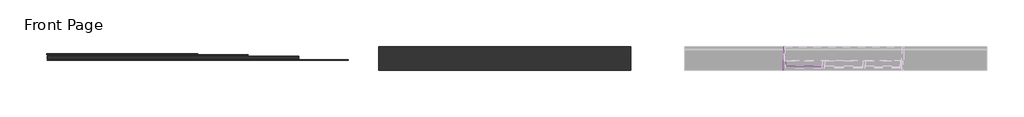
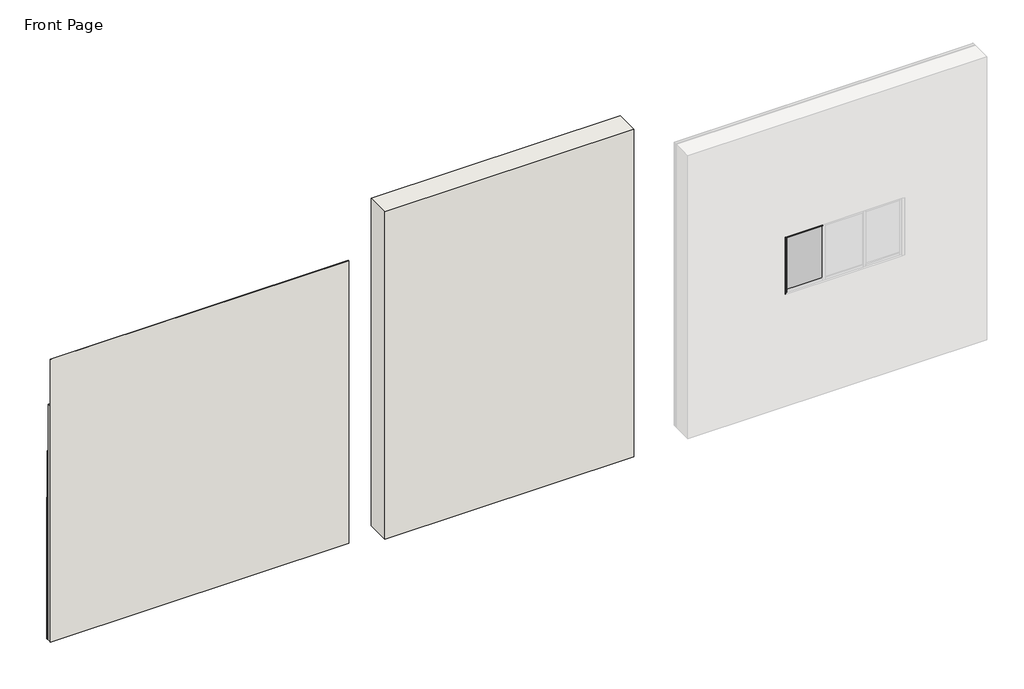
# One storey, part 1 of 2: 8 walls, 2 members, 1 plate.
"""IFC4 building model written with IfcOpenShell, lengths in millimetres."""

from ifc_helpers import new_model, si_unit, point, frame, frame_2d, origin, origin_with_axes, place, context, project, spatial, polyline, circle_curve, trimmed, segment, composite_curve, outline, extrude, faceted_brep, transform, mapped, element, save
from components import rectangular_mullion_50_x_150mm_a0b78ac3, rectangular_mullion_50_x_150mm_9df94d2e, system_panel_glazed_bc678703

model = new_model("IFC4")

# Units and contexts
model_context = context("Model", 3, world=origin())
ifc_project = project(units=[si_unit("LENGTHUNIT", "METRE", prefix="MILLI")], contexts=[model_context])

# Site, building, storey
site = spatial("IfcSite", under=ifc_project)
building = spatial("IfcBuilding", under=site)
storey = spatial("IfcBuildingStorey", under=building, Name="Front Page", Elevation=0.0)

# Members
placement = place(None, origin())
rectangular_mullion_50_x_150mm_shape = rectangular_mullion_50_x_150mm_a0b78ac3(model_context)
element("IfcMember", 1, ObjectType="Rectangular Mullion : 50 x 150mm", at=placement, inside=storey, context=model_context, shape_type="MappedRepresentation", body=[
    mapped(rectangular_mullion_50_x_150mm_shape, transform((23302.2000967, 330.3189246, 2377.3132869), x_axis=(-1.0, 0.0, 0.0), y_axis=(0.0, 1.0, 0.0), z_axis=(0.0, 0.0, -1.0))),
])
rectangular_mullion_50_x_150mm_2_shape = rectangular_mullion_50_x_150mm_9df94d2e(model_context)
element("IfcMember", 2, ObjectType="Rectangular Mullion : 50 x 150mm", at=placement, inside=storey, context=model_context, shape_type="MappedRepresentation", body=[
    mapped(rectangular_mullion_50_x_150mm_2_shape, transform((23352.2000967, 330.3189246, 3589.3132869), x_axis=(0.0, 0.0, 1.0), y_axis=(0.0, 1.0, 0.0), z_axis=(-1.0, 0.0, 0.0))),
])

# Plate
system_panel_glazed_shape = system_panel_glazed_bc678703(model_context)
element("IfcPlate", 3, ObjectType="System Panel : Glazed", at=placement, inside=storey, context=model_context, shape_type="MappedRepresentation", body=[
    mapped(system_panel_glazed_shape, transform((23712.9500967, 330.3189246, 2427.3132869), x_axis=(-1.0, 0.0, 0.0), y_axis=(0.0, -1.0, 0.0), z_axis=(0.0, 0.0, 1.0))),
])

# Walls
element("IfcWall", 4, ObjectType="Skamol Adhesive - 8mm", at=placement, inside=storey, context=model_context, shape_type="SweptSolid", body=[
    extrude(outline(polyline([(14655.2832575, 423.1423036), (8672.7832575, 423.1423036), (8672.7832575, 431.1423036), (14655.2832575, 431.1423036), (14655.2832575, 423.1423036)])), origin_with_axes(), (0.0, 0.0, 1.0), 6000.0),
])
element("IfcWall", 5, ObjectType="SkamoWall Board 50mm", at=placement, inside=storey, context=model_context, shape_type="SweptSolid", body=[
    extrude(outline(polyline([(13672.7832575, 449.8766786), (8672.7832575, 449.8766786), (8672.7832575, 499.8766786), (13672.7832575, 499.8766786), (13672.7832575, 449.8766786)])), origin_with_axes(), (0.0, 0.0, 1.0), 5000.0),
])
element("IfcWall", 6, ObjectType="Skamol Smooth Plaster", at=placement, inside=storey, context=model_context, shape_type="SweptSolid", body=[
    extrude(outline(polyline([(11663.5645075, 542.1305848), (8663.5645075, 542.1305848), (8663.5645075, 543.1305848), (11663.5645075, 543.1305848), (11663.5645075, 542.1305848)])), origin_with_axes(), (0.0, 0.0, 1.0), 3000.0),
])
element("IfcWall", 7, ObjectType="Skamol Adhesive - 8mm", at=placement, inside=storey, context=model_context, shape_type="SweptSolid", body=[
    extrude(outline(polyline([(23306.2000967, 630.3423621), (23306.2000967, 222.3189246), (23298.2000967, 222.3189246), (23298.2000967, 630.3423621), (23306.2000967, 630.3423621)])), frame((0.0, 0.0, 2377.3132869), z_axis=(0.0, 0.0, 1.0), x_axis=(1.0, 0.0, 0.0)), (0.0, 0.0, 1.0), 1212.0),
])
element("IfcWall", 8, ObjectType="SkamoWall Bore 19mm", at=placement, inside=storey, context=model_context, shape_type="Brep", body=[
    faceted_brep([(23305.6219717, 638.2173621, 2377.3132869), (23305.6219717, 403.3189246, 2377.3132869), (23305.6219717, 403.3189246, 3335.2843555), (23305.6219717, 638.2173621, 3335.2843555), (23305.6219717, 688.2173621, 3335.2843555), (23305.6219717, 688.2173621, 2410.9805239), (23305.6219717, 638.2173621, 2410.9805239), (23324.6219717, 638.2173621, 2377.3132869), (23324.6219717, 638.2173621, 2410.9805239), (23324.6219717, 688.2173621, 2410.9805239), (23324.6219717, 688.2173621, 3335.2843555), (23324.6219717, 403.3189246, 3335.2843555), (23324.6219717, 403.3189246, 2377.3132869)], [[[0, 1, 2, 3, 4, 5, 6]], [[7, 8, 9, 10, 11, 12]], [[1, 0, 7, 12]], [[2, 1, 12, 11]], [[4, 3, 2, 11, 10]], [[5, 9, 8, 6]], [[0, 6, 8, 7]], [[5, 4, 10, 9]]]),
])
element("IfcWall", 9, ObjectType="Skamol Corner", at=placement, inside=storey, context=model_context, shape_type="SweptSolid", body=[
    extrude(outline(polyline([(2540.9913184, 23326.4188467), (2842.1965755, 23326.4188467), (2842.1965755, 23300.8250967), (2540.9913184, 23300.8250967), (2540.9913184, 23326.4188467)]), holes=[composite_curve([segment(trimmed(circle_curve(frame_2d((2648.8978073, 23308.3781455)), 2.2296072), [point((2648.8978073, 23306.1485383))], [point((2648.8978073, 23310.6077527))], True, "CARTESIAN"), True, "CONTINUOUS"), segment(trimmed(circle_curve(frame_2d((2648.8978073, 23308.3781455)), 2.2296072), [point((2648.8978073, 23310.6077527))], [point((2648.8978073, 23306.1485383))], True, "CARTESIAN"), True, "CONTINUOUS")], self_intersect=False), composite_curve([segment(trimmed(circle_curve(frame_2d((2643.5709124, 23317.2823257)), 3.1585397), [point((2643.5709124, 23314.123786))], [point((2643.5709124, 23320.4408654))], True, "CARTESIAN"), True, "CONTINUOUS"), segment(trimmed(circle_curve(frame_2d((2643.5709124, 23317.2823257)), 3.1585397), [point((2643.5709124, 23320.4408654))], [point((2643.5709124, 23314.123786))], True, "CARTESIAN"), True, "CONTINUOUS")], self_intersect=False), composite_curve([segment(trimmed(circle_curve(frame_2d((2638.8978073, 23308.3781455)), 2.2296072), [point((2638.8978073, 23306.1485383))], [point((2638.8978073, 23310.6077527))], True, "CARTESIAN"), True, "CONTINUOUS"), segment(trimmed(circle_curve(frame_2d((2638.8978073, 23308.3781455)), 2.2296072), [point((2638.8978073, 23310.6077527))], [point((2638.8978073, 23306.1485383))], True, "CARTESIAN"), True, "CONTINUOUS")], self_intersect=False), composite_curve([segment(trimmed(circle_curve(frame_2d((2633.5709124, 23317.2823257)), 3.1585397), [point((2633.5709124, 23314.123786))], [point((2633.5709124, 23320.4408654))], True, "CARTESIAN"), True, "CONTINUOUS"), segment(trimmed(circle_curve(frame_2d((2633.5709124, 23317.2823257)), 3.1585397), [point((2633.5709124, 23320.4408654))], [point((2633.5709124, 23314.123786))], True, "CARTESIAN"), True, "CONTINUOUS")], self_intersect=False), composite_curve([segment(trimmed(circle_curve(frame_2d((2628.8978073, 23308.3781455)), 2.2296072), [point((2628.8978073, 23306.1485383))], [point((2628.8978073, 23310.6077527))], True, "CARTESIAN"), True, "CONTINUOUS"), segment(trimmed(circle_curve(frame_2d((2628.8978073, 23308.3781455)), 2.2296072), [point((2628.8978073, 23310.6077527))], [point((2628.8978073, 23306.1485383))], True, "CARTESIAN"), True, "CONTINUOUS")], self_intersect=False), composite_curve([segment(trimmed(circle_curve(frame_2d((2623.5709124, 23317.2823257)), 3.1585397), [point((2623.5709124, 23314.123786))], [point((2623.5709124, 23320.4408654))], True, "CARTESIAN"), True, "CONTINUOUS"), segment(trimmed(circle_curve(frame_2d((2623.5709124, 23317.2823257)), 3.1585397), [point((2623.5709124, 23320.4408654))], [point((2623.5709124, 23314.123786))], True, "CARTESIAN"), True, "CONTINUOUS")], self_intersect=False), composite_curve([segment(trimmed(circle_curve(frame_2d((2618.8978073, 23308.3781455)), 2.2296072), [point((2618.8978073, 23306.1485383))], [point((2618.8978073, 23310.6077527))], True, "CARTESIAN"), True, "CONTINUOUS"), segment(trimmed(circle_curve(frame_2d((2618.8978073, 23308.3781455)), 2.2296072), [point((2618.8978073, 23310.6077527))], [point((2618.8978073, 23306.1485383))], True, "CARTESIAN"), True, "CONTINUOUS")], self_intersect=False), composite_curve([segment(trimmed(circle_curve(frame_2d((2613.5709124, 23317.2823257)), 3.1585397), [point((2613.5709124, 23314.123786))], [point((2613.5709124, 23320.4408654))], True, "CARTESIAN"), True, "CONTINUOUS"), segment(trimmed(circle_curve(frame_2d((2613.5709124, 23317.2823257)), 3.1585397), [point((2613.5709124, 23320.4408654))], [point((2613.5709124, 23314.123786))], True, "CARTESIAN"), True, "CONTINUOUS")], self_intersect=False), composite_curve([segment(trimmed(circle_curve(frame_2d((2608.8978073, 23308.3781455)), 2.2296072), [point((2608.8978073, 23306.1485383))], [point((2608.8978073, 23310.6077527))], True, "CARTESIAN"), True, "CONTINUOUS"), segment(trimmed(circle_curve(frame_2d((2608.8978073, 23308.3781455)), 2.2296072), [point((2608.8978073, 23310.6077527))], [point((2608.8978073, 23306.1485383))], True, "CARTESIAN"), True, "CONTINUOUS")], self_intersect=False), composite_curve([segment(trimmed(circle_curve(frame_2d((2603.5709124, 23317.2823257)), 3.1585397), [point((2603.5709124, 23314.123786))], [point((2603.5709124, 23320.4408654))], True, "CARTESIAN"), True, "CONTINUOUS"), segment(trimmed(circle_curve(frame_2d((2603.5709124, 23317.2823257)), 3.1585397), [point((2603.5709124, 23320.4408654))], [point((2603.5709124, 23314.123786))], True, "CARTESIAN"), True, "CONTINUOUS")], self_intersect=False), composite_curve([segment(trimmed(circle_curve(frame_2d((2598.8978073, 23308.3781455)), 2.2296072), [point((2598.8978073, 23306.1485383))], [point((2598.8978073, 23310.6077527))], True, "CARTESIAN"), True, "CONTINUOUS"), segment(trimmed(circle_curve(frame_2d((2598.8978073, 23308.3781455)), 2.2296072), [point((2598.8978073, 23310.6077527))], [point((2598.8978073, 23306.1485383))], True, "CARTESIAN"), True, "CONTINUOUS")], self_intersect=False), composite_curve([segment(trimmed(circle_curve(frame_2d((2593.5709124, 23317.2823257)), 3.1585397), [point((2593.5709124, 23314.123786))], [point((2593.5709124, 23320.4408654))], True, "CARTESIAN"), True, "CONTINUOUS"), segment(trimmed(circle_curve(frame_2d((2593.5709124, 23317.2823257)), 3.1585397), [point((2593.5709124, 23320.4408654))], [point((2593.5709124, 23314.123786))], True, "CARTESIAN"), True, "CONTINUOUS")], self_intersect=False), composite_curve([segment(trimmed(circle_curve(frame_2d((2588.8978073, 23308.3781455)), 2.2296072), [point((2588.8978073, 23306.1485383))], [point((2588.8978073, 23310.6077527))], True, "CARTESIAN"), True, "CONTINUOUS"), segment(trimmed(circle_curve(frame_2d((2588.8978073, 23308.3781455)), 2.2296072), [point((2588.8978073, 23310.6077527))], [point((2588.8978073, 23306.1485383))], True, "CARTESIAN"), True, "CONTINUOUS")], self_intersect=False), composite_curve([segment(trimmed(circle_curve(frame_2d((2583.5709124, 23317.2823257)), 3.1585397), [point((2583.5709124, 23314.123786))], [point((2583.5709124, 23320.4408654))], True, "CARTESIAN"), True, "CONTINUOUS"), segment(trimmed(circle_curve(frame_2d((2583.5709124, 23317.2823257)), 3.1585397), [point((2583.5709124, 23320.4408654))], [point((2583.5709124, 23314.123786))], True, "CARTESIAN"), True, "CONTINUOUS")], self_intersect=False), composite_curve([segment(trimmed(circle_curve(frame_2d((2578.8978073, 23308.3781455)), 2.2296072), [point((2578.8978073, 23306.1485383))], [point((2578.8978073, 23310.6077527))], True, "CARTESIAN"), True, "CONTINUOUS"), segment(trimmed(circle_curve(frame_2d((2578.8978073, 23308.3781455)), 2.2296072), [point((2578.8978073, 23310.6077527))], [point((2578.8978073, 23306.1485383))], True, "CARTESIAN"), True, "CONTINUOUS")], self_intersect=False), composite_curve([segment(trimmed(circle_curve(frame_2d((2573.5709124, 23317.2823257)), 3.1585397), [point((2573.5709124, 23314.123786))], [point((2573.5709124, 23320.4408654))], True, "CARTESIAN"), True, "CONTINUOUS"), segment(trimmed(circle_curve(frame_2d((2573.5709124, 23317.2823257)), 3.1585397), [point((2573.5709124, 23320.4408654))], [point((2573.5709124, 23314.123786))], True, "CARTESIAN"), True, "CONTINUOUS")], self_intersect=False), composite_curve([segment(trimmed(circle_curve(frame_2d((2568.8978073, 23308.3781455)), 2.2296072), [point((2568.8978073, 23306.1485383))], [point((2568.8978073, 23310.6077527))], True, "CARTESIAN"), True, "CONTINUOUS"), segment(trimmed(circle_curve(frame_2d((2568.8978073, 23308.3781455)), 2.2296072), [point((2568.8978073, 23310.6077527))], [point((2568.8978073, 23306.1485383))], True, "CARTESIAN"), True, "CONTINUOUS")], self_intersect=False), composite_curve([segment(trimmed(circle_curve(frame_2d((2563.5709124, 23317.2823257)), 3.1585397), [point((2563.5709124, 23314.123786))], [point((2563.5709124, 23320.4408654))], True, "CARTESIAN"), True, "CONTINUOUS"), segment(trimmed(circle_curve(frame_2d((2563.5709124, 23317.2823257)), 3.1585397), [point((2563.5709124, 23320.4408654))], [point((2563.5709124, 23314.123786))], True, "CARTESIAN"), True, "CONTINUOUS")], self_intersect=False), composite_curve([segment(trimmed(circle_curve(frame_2d((2558.8978073, 23308.3781455)), 2.2296072), [point((2558.8978073, 23306.1485383))], [point((2558.8978073, 23310.6077527))], True, "CARTESIAN"), True, "CONTINUOUS"), segment(trimmed(circle_curve(frame_2d((2558.8978073, 23308.3781455)), 2.2296072), [point((2558.8978073, 23310.6077527))], [point((2558.8978073, 23306.1485383))], True, "CARTESIAN"), True, "CONTINUOUS")], self_intersect=False), composite_curve([segment(trimmed(circle_curve(frame_2d((2553.5709124, 23317.2823257)), 3.1585397), [point((2553.5709124, 23314.123786))], [point((2553.5709124, 23320.4408654))], True, "CARTESIAN"), True, "CONTINUOUS"), segment(trimmed(circle_curve(frame_2d((2553.5709124, 23317.2823257)), 3.1585397), [point((2553.5709124, 23320.4408654))], [point((2553.5709124, 23314.123786))], True, "CARTESIAN"), True, "CONTINUOUS")], self_intersect=False), composite_curve([segment(trimmed(circle_curve(frame_2d((2548.8978073, 23308.3781455)), 2.2296072), [point((2548.8978073, 23306.1485383))], [point((2548.8978073, 23310.6077527))], True, "CARTESIAN"), True, "CONTINUOUS"), segment(trimmed(circle_curve(frame_2d((2548.8978073, 23308.3781455)), 2.2296072), [point((2548.8978073, 23310.6077527))], [point((2548.8978073, 23306.1485383))], True, "CARTESIAN"), True, "CONTINUOUS")], self_intersect=False), composite_curve([segment(trimmed(circle_curve(frame_2d((2748.8978073, 23308.3781455)), 2.2296072), [point((2748.8978073, 23306.1485383))], [point((2748.8978073, 23310.6077527))], True, "CARTESIAN"), True, "CONTINUOUS"), segment(trimmed(circle_curve(frame_2d((2748.8978073, 23308.3781455)), 2.2296072), [point((2748.8978073, 23310.6077527))], [point((2748.8978073, 23306.1485383))], True, "CARTESIAN"), True, "CONTINUOUS")], self_intersect=False), composite_curve([segment(trimmed(circle_curve(frame_2d((2743.5709124, 23317.2823257)), 3.1585397), [point((2743.5709124, 23314.123786))], [point((2743.5709124, 23320.4408654))], True, "CARTESIAN"), True, "CONTINUOUS"), segment(trimmed(circle_curve(frame_2d((2743.5709124, 23317.2823257)), 3.1585397), [point((2743.5709124, 23320.4408654))], [point((2743.5709124, 23314.123786))], True, "CARTESIAN"), True, "CONTINUOUS")], self_intersect=False), composite_curve([segment(trimmed(circle_curve(frame_2d((2738.8978073, 23308.3781455)), 2.2296072), [point((2738.8978073, 23306.1485383))], [point((2738.8978073, 23310.6077527))], True, "CARTESIAN"), True, "CONTINUOUS"), segment(trimmed(circle_curve(frame_2d((2738.8978073, 23308.3781455)), 2.2296072), [point((2738.8978073, 23310.6077527))], [point((2738.8978073, 23306.1485383))], True, "CARTESIAN"), True, "CONTINUOUS")], self_intersect=False), composite_curve([segment(trimmed(circle_curve(frame_2d((2733.5709124, 23317.2823257)), 3.1585397), [point((2733.5709124, 23314.123786))], [point((2733.5709124, 23320.4408654))], True, "CARTESIAN"), True, "CONTINUOUS"), segment(trimmed(circle_curve(frame_2d((2733.5709124, 23317.2823257)), 3.1585397), [point((2733.5709124, 23320.4408654))], [point((2733.5709124, 23314.123786))], True, "CARTESIAN"), True, "CONTINUOUS")], self_intersect=False), composite_curve([segment(trimmed(circle_curve(frame_2d((2728.8978073, 23308.3781455)), 2.2296072), [point((2728.8978073, 23306.1485383))], [point((2728.8978073, 23310.6077527))], True, "CARTESIAN"), True, "CONTINUOUS"), segment(trimmed(circle_curve(frame_2d((2728.8978073, 23308.3781455)), 2.2296072), [point((2728.8978073, 23310.6077527))], [point((2728.8978073, 23306.1485383))], True, "CARTESIAN"), True, "CONTINUOUS")], self_intersect=False), composite_curve([segment(trimmed(circle_curve(frame_2d((2723.5709124, 23317.2823257)), 3.1585397), [point((2723.5709124, 23314.123786))], [point((2723.5709124, 23320.4408654))], True, "CARTESIAN"), True, "CONTINUOUS"), segment(trimmed(circle_curve(frame_2d((2723.5709124, 23317.2823257)), 3.1585397), [point((2723.5709124, 23320.4408654))], [point((2723.5709124, 23314.123786))], True, "CARTESIAN"), True, "CONTINUOUS")], self_intersect=False), composite_curve([segment(trimmed(circle_curve(frame_2d((2718.8978073, 23308.3781455)), 2.2296072), [point((2718.8978073, 23306.1485383))], [point((2718.8978073, 23310.6077527))], True, "CARTESIAN"), True, "CONTINUOUS"), segment(trimmed(circle_curve(frame_2d((2718.8978073, 23308.3781455)), 2.2296072), [point((2718.8978073, 23310.6077527))], [point((2718.8978073, 23306.1485383))], True, "CARTESIAN"), True, "CONTINUOUS")], self_intersect=False), composite_curve([segment(trimmed(circle_curve(frame_2d((2713.5709124, 23317.2823257)), 3.1585397), [point((2713.5709124, 23314.123786))], [point((2713.5709124, 23320.4408654))], True, "CARTESIAN"), True, "CONTINUOUS"), segment(trimmed(circle_curve(frame_2d((2713.5709124, 23317.2823257)), 3.1585397), [point((2713.5709124, 23320.4408654))], [point((2713.5709124, 23314.123786))], True, "CARTESIAN"), True, "CONTINUOUS")], self_intersect=False), composite_curve([segment(trimmed(circle_curve(frame_2d((2708.8978073, 23308.3781455)), 2.2296072), [point((2708.8978073, 23306.1485383))], [point((2708.8978073, 23310.6077527))], True, "CARTESIAN"), True, "CONTINUOUS"), segment(trimmed(circle_curve(frame_2d((2708.8978073, 23308.3781455)), 2.2296072), [point((2708.8978073, 23310.6077527))], [point((2708.8978073, 23306.1485383))], True, "CARTESIAN"), True, "CONTINUOUS")], self_intersect=False), composite_curve([segment(trimmed(circle_curve(frame_2d((2703.5709124, 23317.2823257)), 3.1585397), [point((2703.5709124, 23314.123786))], [point((2703.5709124, 23320.4408654))], True, "CARTESIAN"), True, "CONTINUOUS"), segment(trimmed(circle_curve(frame_2d((2703.5709124, 23317.2823257)), 3.1585397), [point((2703.5709124, 23320.4408654))], [point((2703.5709124, 23314.123786))], True, "CARTESIAN"), True, "CONTINUOUS")], self_intersect=False), composite_curve([segment(trimmed(circle_curve(frame_2d((2698.8978073, 23308.3781455)), 2.2296072), [point((2698.8978073, 23306.1485383))], [point((2698.8978073, 23310.6077527))], True, "CARTESIAN"), True, "CONTINUOUS"), segment(trimmed(circle_curve(frame_2d((2698.8978073, 23308.3781455)), 2.2296072), [point((2698.8978073, 23310.6077527))], [point((2698.8978073, 23306.1485383))], True, "CARTESIAN"), True, "CONTINUOUS")], self_intersect=False), composite_curve([segment(trimmed(circle_curve(frame_2d((2693.5709124, 23317.2823257)), 3.1585397), [point((2693.5709124, 23314.123786))], [point((2693.5709124, 23320.4408654))], True, "CARTESIAN"), True, "CONTINUOUS"), segment(trimmed(circle_curve(frame_2d((2693.5709124, 23317.2823257)), 3.1585397), [point((2693.5709124, 23320.4408654))], [point((2693.5709124, 23314.123786))], True, "CARTESIAN"), True, "CONTINUOUS")], self_intersect=False), composite_curve([segment(trimmed(circle_curve(frame_2d((2688.8978073, 23308.3781455)), 2.2296072), [point((2688.8978073, 23306.1485383))], [point((2688.8978073, 23310.6077527))], True, "CARTESIAN"), True, "CONTINUOUS"), segment(trimmed(circle_curve(frame_2d((2688.8978073, 23308.3781455)), 2.2296072), [point((2688.8978073, 23310.6077527))], [point((2688.8978073, 23306.1485383))], True, "CARTESIAN"), True, "CONTINUOUS")], self_intersect=False), composite_curve([segment(trimmed(circle_curve(frame_2d((2683.5709124, 23317.2823257)), 3.1585397), [point((2683.5709124, 23314.123786))], [point((2683.5709124, 23320.4408654))], True, "CARTESIAN"), True, "CONTINUOUS"), segment(trimmed(circle_curve(frame_2d((2683.5709124, 23317.2823257)), 3.1585397), [point((2683.5709124, 23320.4408654))], [point((2683.5709124, 23314.123786))], True, "CARTESIAN"), True, "CONTINUOUS")], self_intersect=False), composite_curve([segment(trimmed(circle_curve(frame_2d((2678.8978073, 23308.3781455)), 2.2296072), [point((2678.8978073, 23306.1485383))], [point((2678.8978073, 23310.6077527))], True, "CARTESIAN"), True, "CONTINUOUS"), segment(trimmed(circle_curve(frame_2d((2678.8978073, 23308.3781455)), 2.2296072), [point((2678.8978073, 23310.6077527))], [point((2678.8978073, 23306.1485383))], True, "CARTESIAN"), True, "CONTINUOUS")], self_intersect=False), composite_curve([segment(trimmed(circle_curve(frame_2d((2673.5709124, 23317.2823257)), 3.1585397), [point((2673.5709124, 23314.123786))], [point((2673.5709124, 23320.4408654))], True, "CARTESIAN"), True, "CONTINUOUS"), segment(trimmed(circle_curve(frame_2d((2673.5709124, 23317.2823257)), 3.1585397), [point((2673.5709124, 23320.4408654))], [point((2673.5709124, 23314.123786))], True, "CARTESIAN"), True, "CONTINUOUS")], self_intersect=False), composite_curve([segment(trimmed(circle_curve(frame_2d((2668.8978073, 23308.3781455)), 2.2296072), [point((2668.8978073, 23306.1485383))], [point((2668.8978073, 23310.6077527))], True, "CARTESIAN"), True, "CONTINUOUS"), segment(trimmed(circle_curve(frame_2d((2668.8978073, 23308.3781455)), 2.2296072), [point((2668.8978073, 23310.6077527))], [point((2668.8978073, 23306.1485383))], True, "CARTESIAN"), True, "CONTINUOUS")], self_intersect=False), composite_curve([segment(trimmed(circle_curve(frame_2d((2663.5709124, 23317.2823257)), 3.1585397), [point((2663.5709124, 23314.123786))], [point((2663.5709124, 23320.4408654))], True, "CARTESIAN"), True, "CONTINUOUS"), segment(trimmed(circle_curve(frame_2d((2663.5709124, 23317.2823257)), 3.1585397), [point((2663.5709124, 23320.4408654))], [point((2663.5709124, 23314.123786))], True, "CARTESIAN"), True, "CONTINUOUS")], self_intersect=False), composite_curve([segment(trimmed(circle_curve(frame_2d((2658.8978073, 23308.3781455)), 2.2296072), [point((2658.8978073, 23306.1485383))], [point((2658.8978073, 23310.6077527))], True, "CARTESIAN"), True, "CONTINUOUS"), segment(trimmed(circle_curve(frame_2d((2658.8978073, 23308.3781455)), 2.2296072), [point((2658.8978073, 23310.6077527))], [point((2658.8978073, 23306.1485383))], True, "CARTESIAN"), True, "CONTINUOUS")], self_intersect=False), composite_curve([segment(trimmed(circle_curve(frame_2d((2653.5709124, 23317.2823257)), 3.1585397), [point((2653.5709124, 23314.123786))], [point((2653.5709124, 23320.4408654))], True, "CARTESIAN"), True, "CONTINUOUS"), segment(trimmed(circle_curve(frame_2d((2653.5709124, 23317.2823257)), 3.1585397), [point((2653.5709124, 23320.4408654))], [point((2653.5709124, 23314.123786))], True, "CARTESIAN"), True, "CONTINUOUS")], self_intersect=False), composite_curve([segment(trimmed(circle_curve(frame_2d((2754.2160014, 23317.2823257)), 3.1585397), [point((2754.2160014, 23314.123786))], [point((2754.2160014, 23320.4408654))], True, "CARTESIAN"), True, "CONTINUOUS"), segment(trimmed(circle_curve(frame_2d((2754.2160014, 23317.2823257)), 3.1585397), [point((2754.2160014, 23320.4408654))], [point((2754.2160014, 23314.123786))], True, "CARTESIAN"), True, "CONTINUOUS")], self_intersect=False), composite_curve([segment(trimmed(circle_curve(frame_2d((2759.5059925, 23308.3672039)), 2.2296072), [point((2759.5059925, 23306.1375967))], [point((2759.5059925, 23310.5968111))], True, "CARTESIAN"), True, "CONTINUOUS"), segment(trimmed(circle_curve(frame_2d((2759.5059925, 23308.3672039)), 2.2296072), [point((2759.5059925, 23310.5968111))], [point((2759.5059925, 23306.1375967))], True, "CARTESIAN"), True, "CONTINUOUS")], self_intersect=False), composite_curve([segment(trimmed(circle_curve(frame_2d((2839.0092175, 23308.3672039)), 2.2296072), [point((2839.0092175, 23306.1375967))], [point((2839.0092175, 23310.5968111))], True, "CARTESIAN"), True, "CONTINUOUS"), segment(trimmed(circle_curve(frame_2d((2839.0092175, 23308.3672039)), 2.2296072), [point((2839.0092175, 23310.5968111))], [point((2839.0092175, 23306.1375967))], True, "CARTESIAN"), True, "CONTINUOUS")], self_intersect=False), composite_curve([segment(trimmed(circle_curve(frame_2d((2834.1790976, 23317.2713842)), 3.1585397), [point((2834.1790976, 23314.1128445))], [point((2834.1790976, 23320.4299238))], True, "CARTESIAN"), True, "CONTINUOUS"), segment(trimmed(circle_curve(frame_2d((2834.1790976, 23317.2713842)), 3.1585397), [point((2834.1790976, 23320.4299238))], [point((2834.1790976, 23314.1128445))], True, "CARTESIAN"), True, "CONTINUOUS")], self_intersect=False), composite_curve([segment(trimmed(circle_curve(frame_2d((2829.5059925, 23308.3672039)), 2.2296072), [point((2829.5059925, 23306.1375967))], [point((2829.5059925, 23310.5968111))], True, "CARTESIAN"), True, "CONTINUOUS"), segment(trimmed(circle_curve(frame_2d((2829.5059925, 23308.3672039)), 2.2296072), [point((2829.5059925, 23310.5968111))], [point((2829.5059925, 23306.1375967))], True, "CARTESIAN"), True, "CONTINUOUS")], self_intersect=False), composite_curve([segment(trimmed(circle_curve(frame_2d((2824.1790976, 23317.2713842)), 3.1585397), [point((2824.1790976, 23314.1128445))], [point((2824.1790976, 23320.4299238))], True, "CARTESIAN"), True, "CONTINUOUS"), segment(trimmed(circle_curve(frame_2d((2824.1790976, 23317.2713842)), 3.1585397), [point((2824.1790976, 23320.4299238))], [point((2824.1790976, 23314.1128445))], True, "CARTESIAN"), True, "CONTINUOUS")], self_intersect=False), composite_curve([segment(trimmed(circle_curve(frame_2d((2819.5059925, 23308.3672039)), 2.2296072), [point((2819.5059925, 23306.1375967))], [point((2819.5059925, 23310.5968111))], True, "CARTESIAN"), True, "CONTINUOUS"), segment(trimmed(circle_curve(frame_2d((2819.5059925, 23308.3672039)), 2.2296072), [point((2819.5059925, 23310.5968111))], [point((2819.5059925, 23306.1375967))], True, "CARTESIAN"), True, "CONTINUOUS")], self_intersect=False), composite_curve([segment(trimmed(circle_curve(frame_2d((2814.1790976, 23317.2713842)), 3.1585397), [point((2814.1790976, 23314.1128445))], [point((2814.1790976, 23320.4299238))], True, "CARTESIAN"), True, "CONTINUOUS"), segment(trimmed(circle_curve(frame_2d((2814.1790976, 23317.2713842)), 3.1585397), [point((2814.1790976, 23320.4299238))], [point((2814.1790976, 23314.1128445))], True, "CARTESIAN"), True, "CONTINUOUS")], self_intersect=False), composite_curve([segment(trimmed(circle_curve(frame_2d((2809.5059925, 23308.3672039)), 2.2296072), [point((2809.5059925, 23306.1375967))], [point((2809.5059925, 23310.5968111))], True, "CARTESIAN"), True, "CONTINUOUS"), segment(trimmed(circle_curve(frame_2d((2809.5059925, 23308.3672039)), 2.2296072), [point((2809.5059925, 23310.5968111))], [point((2809.5059925, 23306.1375967))], True, "CARTESIAN"), True, "CONTINUOUS")], self_intersect=False), composite_curve([segment(trimmed(circle_curve(frame_2d((2804.1790976, 23317.2713842)), 3.1585397), [point((2804.1790976, 23314.1128445))], [point((2804.1790976, 23320.4299238))], True, "CARTESIAN"), True, "CONTINUOUS"), segment(trimmed(circle_curve(frame_2d((2804.1790976, 23317.2713842)), 3.1585397), [point((2804.1790976, 23320.4299238))], [point((2804.1790976, 23314.1128445))], True, "CARTESIAN"), True, "CONTINUOUS")], self_intersect=False), composite_curve([segment(trimmed(circle_curve(frame_2d((2799.5059925, 23308.3672039)), 2.2296072), [point((2799.5059925, 23306.1375967))], [point((2799.5059925, 23310.5968111))], True, "CARTESIAN"), True, "CONTINUOUS"), segment(trimmed(circle_curve(frame_2d((2799.5059925, 23308.3672039)), 2.2296072), [point((2799.5059925, 23310.5968111))], [point((2799.5059925, 23306.1375967))], True, "CARTESIAN"), True, "CONTINUOUS")], self_intersect=False), composite_curve([segment(trimmed(circle_curve(frame_2d((2794.1790976, 23317.2713842)), 3.1585397), [point((2794.1790976, 23314.1128445))], [point((2794.1790976, 23320.4299238))], True, "CARTESIAN"), True, "CONTINUOUS"), segment(trimmed(circle_curve(frame_2d((2794.1790976, 23317.2713842)), 3.1585397), [point((2794.1790976, 23320.4299238))], [point((2794.1790976, 23314.1128445))], True, "CARTESIAN"), True, "CONTINUOUS")], self_intersect=False), composite_curve([segment(trimmed(circle_curve(frame_2d((2789.5059925, 23308.3672039)), 2.2296072), [point((2789.5059925, 23306.1375967))], [point((2789.5059925, 23310.5968111))], True, "CARTESIAN"), True, "CONTINUOUS"), segment(trimmed(circle_curve(frame_2d((2789.5059925, 23308.3672039)), 2.2296072), [point((2789.5059925, 23310.5968111))], [point((2789.5059925, 23306.1375967))], True, "CARTESIAN"), True, "CONTINUOUS")], self_intersect=False), composite_curve([segment(trimmed(circle_curve(frame_2d((2784.1790976, 23317.2713842)), 3.1585397), [point((2784.1790976, 23314.1128445))], [point((2784.1790976, 23320.4299238))], True, "CARTESIAN"), True, "CONTINUOUS"), segment(trimmed(circle_curve(frame_2d((2784.1790976, 23317.2713842)), 3.1585397), [point((2784.1790976, 23320.4299238))], [point((2784.1790976, 23314.1128445))], True, "CARTESIAN"), True, "CONTINUOUS")], self_intersect=False), composite_curve([segment(trimmed(circle_curve(frame_2d((2779.5059925, 23308.3672039)), 2.2296072), [point((2779.5059925, 23306.1375967))], [point((2779.5059925, 23310.5968111))], True, "CARTESIAN"), True, "CONTINUOUS"), segment(trimmed(circle_curve(frame_2d((2779.5059925, 23308.3672039)), 2.2296072), [point((2779.5059925, 23310.5968111))], [point((2779.5059925, 23306.1375967))], True, "CARTESIAN"), True, "CONTINUOUS")], self_intersect=False), composite_curve([segment(trimmed(circle_curve(frame_2d((2774.1790976, 23317.2713842)), 3.1585397), [point((2774.1790976, 23314.1128445))], [point((2774.1790976, 23320.4299238))], True, "CARTESIAN"), True, "CONTINUOUS"), segment(trimmed(circle_curve(frame_2d((2774.1790976, 23317.2713842)), 3.1585397), [point((2774.1790976, 23320.4299238))], [point((2774.1790976, 23314.1128445))], True, "CARTESIAN"), True, "CONTINUOUS")], self_intersect=False), composite_curve([segment(trimmed(circle_curve(frame_2d((2769.5059925, 23308.3672039)), 2.2296072), [point((2769.5059925, 23306.1375967))], [point((2769.5059925, 23310.5968111))], True, "CARTESIAN"), True, "CONTINUOUS"), segment(trimmed(circle_curve(frame_2d((2769.5059925, 23308.3672039)), 2.2296072), [point((2769.5059925, 23310.5968111))], [point((2769.5059925, 23306.1375967))], True, "CARTESIAN"), True, "CONTINUOUS")], self_intersect=False), composite_curve([segment(trimmed(circle_curve(frame_2d((2764.1790976, 23317.2713842)), 3.1585397), [point((2764.1790976, 23314.1128445))], [point((2764.1790976, 23320.4299238))], True, "CARTESIAN"), True, "CONTINUOUS"), segment(trimmed(circle_curve(frame_2d((2764.1790976, 23317.2713842)), 3.1585397), [point((2764.1790976, 23320.4299238))], [point((2764.1790976, 23314.1128445))], True, "CARTESIAN"), True, "CONTINUOUS")], self_intersect=False)]), frame((0.0, 689.7486121, 0.0), z_axis=(0.0, 1.0, 0.0), x_axis=(0.0, 0.0, 1.0)), (0.0, 0.0, 1.0), 1.0),
])
element("IfcWall", 10, ObjectType="Samlet opbygning", at=placement, inside=storey, context=model_context, shape_type="SweptSolid", body=[
    extrude(outline(polyline([(20263.8136676, 221.8189246), (15263.8136676, 221.8189246), (15263.8136676, 689.8189246), (20263.8136676, 689.8189246), (20263.8136676, 221.8189246)])), origin_with_axes(), (0.0, 0.0, 1.0), 6941.2486873),
])
element("IfcWall", 11, ObjectType="Skamol Primer", at=placement, inside=storey, context=model_context, shape_type="SweptSolid", body=[
    extrude(outline(polyline([(12669.8145075, 523.8766786), (8669.8145075, 523.8766786), (8669.8145075, 524.8766786), (12669.8145075, 524.8766786), (12669.8145075, 523.8766786)])), origin_with_axes(), (0.0, 0.0, 1.0), 4000.0),
])

save(model, "model.ifc")
